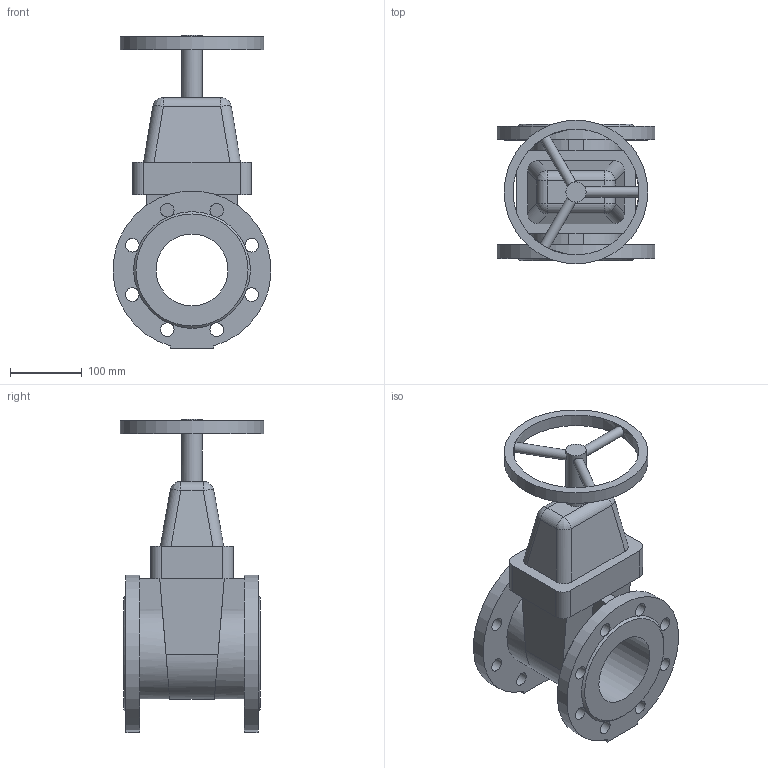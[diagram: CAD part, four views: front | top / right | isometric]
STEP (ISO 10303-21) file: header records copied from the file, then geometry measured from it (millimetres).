
FILE_DESCRIPTION(('STEP AP203'), '1');
FILE_NAME('Çàäâèæêà 47GV DN100 PN10_PN16_L190 ñ ìàõîâèêîì', '', ('UNSPECIFIED'), ('UNSPECIFIED'), 'ASCON STEP Converter 1.6', 'ASCON Math Kernel', '');
FILE_SCHEMA(('CONFIG_CONTROL_DESIGN'));
Length unit declared in the file: millimetre
Bounding box: 219.31 x 200 x 437 mm (x, y, z)
Volume: 4284452.8 mm3; surface area: 410910 mm2
Topology: 1 solids, 1 shells, 108 faces, 317 edges, 201 vertices
Faces by surface type: plane 54, cylinder 48, bspline 4, cone 2
Full cylindrical faces by diameter (mm): 14 x3, 19 x16, 28 x1, 100 x1, 175 x1, 200 x1
Entity records: 6053 total; most frequent: CARTESIAN_POINT 2334, DIRECTION 574, ORIENTED_EDGE 574, EDGE_CURVE 287, AXIS2_PLACEMENT_3D 221, VERTEX_POINT 201, EDGE_LOOP 168, FACE_BOUND 137
